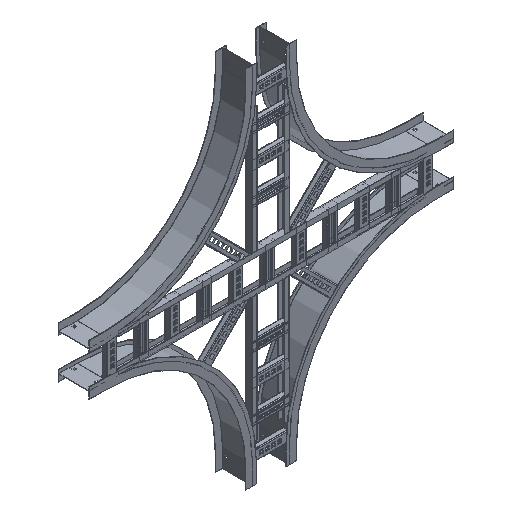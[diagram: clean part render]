
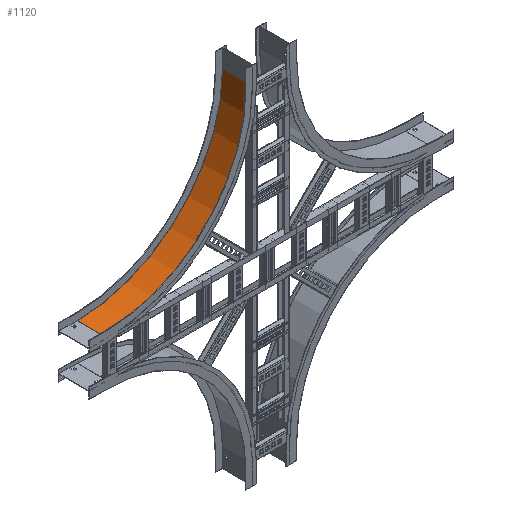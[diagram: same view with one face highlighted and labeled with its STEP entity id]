
A CAD part, isometric view. The second image highlights one B-rep face of the part: STEP entity #1120.
In plain terms, the highlighted cylindrical face has radius 609.6 mm (diameter 1219.2 mm), a partial arc.
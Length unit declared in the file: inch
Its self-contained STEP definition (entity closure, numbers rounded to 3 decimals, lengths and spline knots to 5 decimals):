
#157=CARTESIAN_POINT('',(4.995,-24.,3.));
#158=DIRECTION('',(1.,0.,0.));
#159=DIRECTION('',(0.,1.,0.));
#160=AXIS2_PLACEMENT_3D('',#157,#158,#159);
#350=DIRECTION('',(1.,0.,0.));
#351=VECTOR('',#350,4.91);
#352=CARTESIAN_POINT('',(0.085,-24.,27.));
#353=LINE('',#352,#351);
#390=DIRECTION('',(1.,0.,0.));
#391=VECTOR('',#390,4.91);
#392=CARTESIAN_POINT('',(0.085,0.,3.));
#393=LINE('',#392,#391);
#394=CARTESIAN_POINT('',(0.085,-24.,3.));
#395=DIRECTION('',(1.,0.,0.));
#396=DIRECTION('',(0.,1.,0.));
#397=AXIS2_PLACEMENT_3D('',#394,#395,#396);
#521=CARTESIAN_POINT('',(0.085,0.,3.));
#522=CARTESIAN_POINT('',(4.995,0.,3.));
#523=VERTEX_POINT('',#521);
#524=VERTEX_POINT('',#522);
#545=CARTESIAN_POINT('',(0.085,-24.,27.));
#546=CARTESIAN_POINT('',(4.995,-24.,27.));
#547=VERTEX_POINT('',#545);
#548=VERTEX_POINT('',#546);
#1109=CARTESIAN_POINT('',(-1.,-24.,3.));
#1110=DIRECTION('',(1.,0.,0.));
#1111=DIRECTION('',(0.,-1.,0.));
#1112=AXIS2_PLACEMENT_3D('',#1109,#1110,#1111);
#1113=CYLINDRICAL_SURFACE('',#1112,24.);
#1114=ORIENTED_EDGE('',*,*,#894,.F.);
#1115=ORIENTED_EDGE('',*,*,#935,.T.);
#1116=ORIENTED_EDGE('',*,*,#1082,.T.);
#1117=ORIENTED_EDGE('',*,*,#872,.F.);
#1118=EDGE_LOOP('',(#1114,#1115,#1116,#1117));
#1119=FACE_OUTER_BOUND('',#1118,.F.);
#1120=ADVANCED_FACE('',(#1119),#1113,.F.);
#161=CIRCLE('',#160,24.);
#398=CIRCLE('',#397,24.);
#872=EDGE_CURVE('',#524,#548,#161,.T.);
#894=EDGE_CURVE('',#523,#524,#393,.T.);
#935=EDGE_CURVE('',#523,#547,#398,.T.);
#1082=EDGE_CURVE('',#547,#548,#353,.T.);
